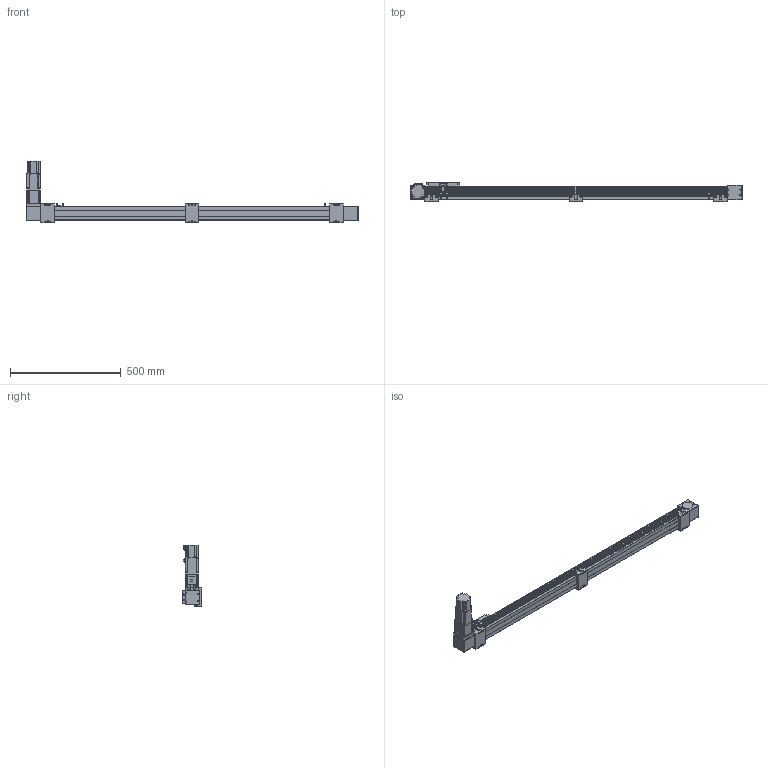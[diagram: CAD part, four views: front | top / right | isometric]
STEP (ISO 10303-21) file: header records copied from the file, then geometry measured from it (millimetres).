
FILE_DESCRIPTION(/* description */ ('STEP AP203'),/* implementation_level */ '2;1');
FILE_NAME(/* name */ 'SK60-P13-S1200-BL-T40-C1-N(0)',/* time_stamp */ '2023-04-06T03:36:49+02:00',/* author */ ('License CC BY-ND 4.0'),/* organization */ ('CADENAS'),/* preprocessor_version */ 'ST-DEVELOPER v19.3',/* originating_system */ 'PARTsolutions',/* authorisation */ ' ');
FILE_SCHEMA (('CONFIG_CONTROL_DESIGN'));
Length unit declared in the file: millimetre
Products named in the file (11): SK60-P13-S1200-BL-T40-C1-N(0); PSC140-sensor; SK60-S450_seat; SK60-S450-BL-C1_slider; SK60_body3; SK60_body6; SK60-BL_body2; T40-p1; SK60_body5; SK60_body4; SK60-S1200-BL-C1_body
Assembly tree (18 placements, depth 2):
  SK60-P13-S1200-BL-T40-C1-N(0)
    PSC140-sensor  x3
    SK60-S450_seat  x3
    SK60-S450-BL-C1_slider
    SK60_body3  x3
    SK60_body6  x2
    SK60-BL_body2  x2
    T40-p1
    SK60_body5
    SK60_body4
    SK60-S1200-BL-C1_body
Bounding box: 1500 x 90 x 278.2 mm (x, y, z)
Volume: 5708783.2 mm3; surface area: 754104.4 mm2
Topology: 18 solids, 22 shells, 878 faces, 2207 edges, 1458 vertices
Faces by surface type: plane 568, cylinder 282, cone 26, torus 2
Full cylindrical faces by diameter (mm): 2.8 x3, 3.3 x4, 4.2 x8, 4.5 x26, 4.6 x3, 4.917 x20, 5 x2, 5.478 x4, 5.5 x23, 6.5 x6, 8 x4, 8.5 x4, 9.988 x4, 10 x12, 13.556 x1, 14 x1, 14.586 x1, 19.692 x1, 38.432 x2, 43 x1, 44 x3, 47 x2, 50 x2
Entity records: 19379 total; most frequent: DIRECTION 3294, CARTESIAN_POINT 3290, ORIENTED_EDGE 3050, EDGE_CURVE 1525, AXIS2_PLACEMENT_3D 1101, LINE 1092, VECTOR 1092, VERTEX_POINT 1077
